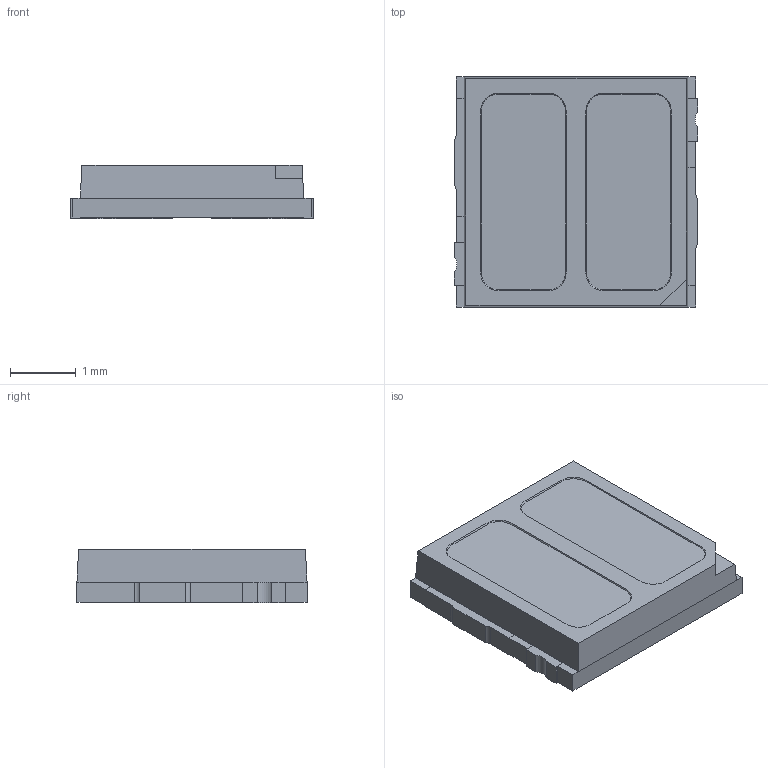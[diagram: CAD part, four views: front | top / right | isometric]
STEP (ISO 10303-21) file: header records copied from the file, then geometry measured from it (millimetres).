
FILE_DESCRIPTION(('STEP AP203'),'1');
FILE_NAME('C:/Users/chee-cheong.chan/Desktop/MCZYW-KZHG.stp','2019-11-21T01:56:40',(' '),(' '),'Spatial InterOp 3D',' ',' ');
FILE_SCHEMA(('CONFIG_CONTROL_DESIGN'));
Length unit declared in the file: millimetre
Products named in the file (1): 1
Bounding box: 3.7 x 3.5 x 0.81 mm (x, y, z)
Volume: 9.6 mm3; surface area: 36.9 mm2
Topology: 1 solids, 1 shells, 118 faces, 338 edges, 224 vertices
Faces by surface type: plane 88, cylinder 30
Entity records: 3874 total; most frequent: CARTESIAN_POINT 681, ORIENTED_EDGE 676, DIRECTION 636, EDGE_CURVE 338, LINE 278, VECTOR 278, VERTEX_POINT 224, AXIS2_PLACEMENT_3D 179
